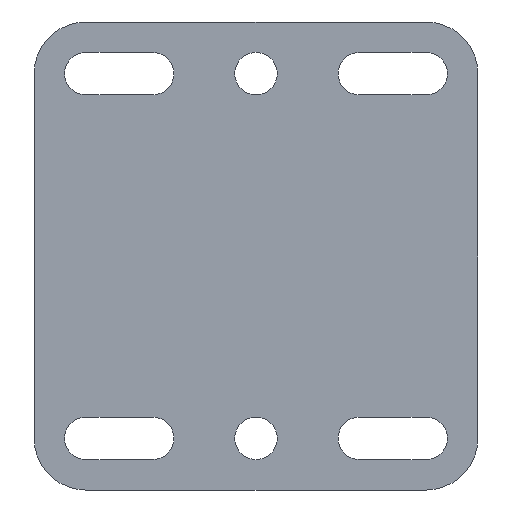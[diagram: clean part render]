
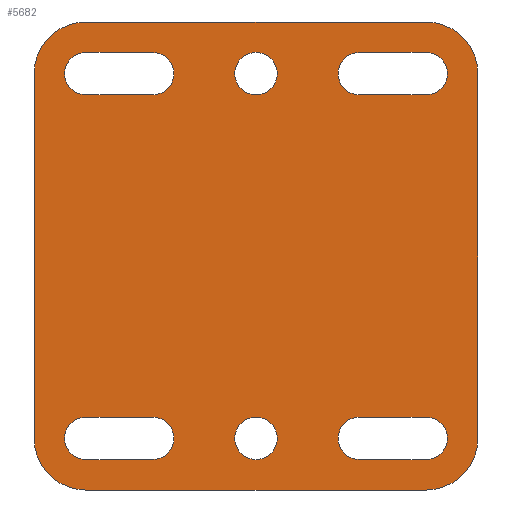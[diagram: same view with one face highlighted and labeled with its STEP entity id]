
A CAD part, front view. The second image highlights one B-rep face of the part: STEP entity #5682.
In plain terms, the highlighted planar face has unit normal (0, -1, 0).
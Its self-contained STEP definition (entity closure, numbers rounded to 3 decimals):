
#99=FACE_BOUND('',#968,.T.);
#100=FACE_BOUND('',#969,.T.);
#101=FACE_BOUND('',#970,.T.);
#102=FACE_BOUND('',#971,.T.);
#103=FACE_BOUND('',#972,.T.);
#104=FACE_BOUND('',#973,.T.);
#213=CIRCLE('',#6068,8.5);
#214=CIRCLE('',#6069,8.5);
#215=CIRCLE('',#6070,8.5);
#216=CIRCLE('',#6071,8.5);
#217=CIRCLE('',#6072,3.5);
#218=CIRCLE('',#6073,3.5);
#219=CIRCLE('',#6074,3.5);
#220=CIRCLE('',#6075,3.5);
#221=CIRCLE('',#6076,3.5);
#222=CIRCLE('',#6077,3.5);
#223=CIRCLE('',#6078,3.5);
#224=CIRCLE('',#6079,3.5);
#225=CIRCLE('',#6080,3.5);
#226=CIRCLE('',#6081,3.5);
#618=FACE_OUTER_BOUND('',#967,.T.);
#967=EDGE_LOOP('',(#3794,#3795,#3796,#3797,#3798,#3799,#3800,#3801));
#968=EDGE_LOOP('',(#3802,#3803,#3804,#3805));
#969=EDGE_LOOP('',(#3806,#3807,#3808,#3809));
#970=EDGE_LOOP('',(#3810));
#971=EDGE_LOOP('',(#3811));
#972=EDGE_LOOP('',(#3812,#3813,#3814,#3815));
#973=EDGE_LOOP('',(#3816,#3817,#3818,#3819));
#1381=LINE('',#8627,#1874);
#1382=LINE('',#8631,#1875);
#1383=LINE('',#8635,#1876);
#1384=LINE('',#8639,#1877);
#1385=LINE('',#8645,#1878);
#1386=LINE('',#8648,#1879);
#1387=LINE('',#8653,#1880);
#1388=LINE('',#8656,#1881);
#1389=LINE('',#8665,#1882);
#1390=LINE('',#8668,#1883);
#1391=LINE('',#8673,#1884);
#1392=LINE('',#8676,#1885);
#1874=VECTOR('',#6758,10.);
#1875=VECTOR('',#6761,10.);
#1876=VECTOR('',#6764,10.);
#1877=VECTOR('',#6767,10.);
#1878=VECTOR('',#6772,10.);
#1879=VECTOR('',#6775,10.);
#1880=VECTOR('',#6778,10.);
#1881=VECTOR('',#6781,10.);
#1882=VECTOR('',#6788,10.);
#1883=VECTOR('',#6791,10.);
#1884=VECTOR('',#6794,10.);
#1885=VECTOR('',#6797,10.);
#2373=VERTEX_POINT('',#8625);
#2374=VERTEX_POINT('',#8626);
#2375=VERTEX_POINT('',#8628);
#2376=VERTEX_POINT('',#8630);
#2377=VERTEX_POINT('',#8632);
#2378=VERTEX_POINT('',#8634);
#2379=VERTEX_POINT('',#8636);
#2380=VERTEX_POINT('',#8638);
#2381=VERTEX_POINT('',#8641);
#2382=VERTEX_POINT('',#8642);
#2383=VERTEX_POINT('',#8644);
#2384=VERTEX_POINT('',#8646);
#2385=VERTEX_POINT('',#8649);
#2386=VERTEX_POINT('',#8650);
#2387=VERTEX_POINT('',#8652);
#2388=VERTEX_POINT('',#8654);
#2389=VERTEX_POINT('',#8657);
#2390=VERTEX_POINT('',#8659);
#2391=VERTEX_POINT('',#8661);
#2392=VERTEX_POINT('',#8662);
#2393=VERTEX_POINT('',#8664);
#2394=VERTEX_POINT('',#8666);
#2395=VERTEX_POINT('',#8669);
#2396=VERTEX_POINT('',#8670);
#2397=VERTEX_POINT('',#8672);
#2398=VERTEX_POINT('',#8674);
#2931=EDGE_CURVE('',#2373,#2374,#1381,.T.);
#2932=EDGE_CURVE('',#2375,#2374,#213,.T.);
#2933=EDGE_CURVE('',#2376,#2375,#1382,.T.);
#2934=EDGE_CURVE('',#2376,#2377,#214,.T.);
#2935=EDGE_CURVE('',#2378,#2377,#1383,.T.);
#2936=EDGE_CURVE('',#2379,#2378,#215,.T.);
#2937=EDGE_CURVE('',#2379,#2380,#1384,.T.);
#2938=EDGE_CURVE('',#2380,#2373,#216,.T.);
#2939=EDGE_CURVE('',#2381,#2382,#217,.T.);
#2940=EDGE_CURVE('',#2382,#2383,#1385,.T.);
#2941=EDGE_CURVE('',#2383,#2384,#218,.T.);
#2942=EDGE_CURVE('',#2384,#2381,#1386,.T.);
#2943=EDGE_CURVE('',#2385,#2386,#219,.T.);
#2944=EDGE_CURVE('',#2387,#2385,#1387,.T.);
#2945=EDGE_CURVE('',#2388,#2387,#220,.T.);
#2946=EDGE_CURVE('',#2386,#2388,#1388,.T.);
#2947=EDGE_CURVE('',#2389,#2389,#221,.T.);
#2948=EDGE_CURVE('',#2390,#2390,#222,.T.);
#2949=EDGE_CURVE('',#2391,#2392,#223,.T.);
#2950=EDGE_CURVE('',#2392,#2393,#1389,.T.);
#2951=EDGE_CURVE('',#2393,#2394,#224,.T.);
#2952=EDGE_CURVE('',#2394,#2391,#1390,.T.);
#2953=EDGE_CURVE('',#2395,#2396,#225,.T.);
#2954=EDGE_CURVE('',#2397,#2395,#1391,.T.);
#2955=EDGE_CURVE('',#2398,#2397,#226,.T.);
#2956=EDGE_CURVE('',#2396,#2398,#1392,.T.);
#3794=ORIENTED_EDGE('',*,*,#2931,.T.);
#3795=ORIENTED_EDGE('',*,*,#2932,.F.);
#3796=ORIENTED_EDGE('',*,*,#2933,.F.);
#3797=ORIENTED_EDGE('',*,*,#2934,.T.);
#3798=ORIENTED_EDGE('',*,*,#2935,.F.);
#3799=ORIENTED_EDGE('',*,*,#2936,.F.);
#3800=ORIENTED_EDGE('',*,*,#2937,.T.);
#3801=ORIENTED_EDGE('',*,*,#2938,.T.);
#3802=ORIENTED_EDGE('',*,*,#2939,.T.);
#3803=ORIENTED_EDGE('',*,*,#2940,.T.);
#3804=ORIENTED_EDGE('',*,*,#2941,.T.);
#3805=ORIENTED_EDGE('',*,*,#2942,.T.);
#3806=ORIENTED_EDGE('',*,*,#2943,.F.);
#3807=ORIENTED_EDGE('',*,*,#2944,.F.);
#3808=ORIENTED_EDGE('',*,*,#2945,.F.);
#3809=ORIENTED_EDGE('',*,*,#2946,.F.);
#3810=ORIENTED_EDGE('',*,*,#2947,.T.);
#3811=ORIENTED_EDGE('',*,*,#2948,.F.);
#3812=ORIENTED_EDGE('',*,*,#2949,.T.);
#3813=ORIENTED_EDGE('',*,*,#2950,.T.);
#3814=ORIENTED_EDGE('',*,*,#2951,.T.);
#3815=ORIENTED_EDGE('',*,*,#2952,.T.);
#3816=ORIENTED_EDGE('',*,*,#2953,.F.);
#3817=ORIENTED_EDGE('',*,*,#2954,.F.);
#3818=ORIENTED_EDGE('',*,*,#2955,.F.);
#3819=ORIENTED_EDGE('',*,*,#2956,.F.);
#5484=PLANE('',#6067);
#5682=ADVANCED_FACE('',(#618,#99,#100,#101,#102,#103,#104),#5484,.F.);
#6067=AXIS2_PLACEMENT_3D('',#8624,#6756,#6757);
#6068=AXIS2_PLACEMENT_3D('',#8629,#6759,#6760);
#6069=AXIS2_PLACEMENT_3D('',#8633,#6762,#6763);
#6070=AXIS2_PLACEMENT_3D('',#8637,#6765,#6766);
#6071=AXIS2_PLACEMENT_3D('',#8640,#6768,#6769);
#6072=AXIS2_PLACEMENT_3D('',#8643,#6770,#6771);
#6073=AXIS2_PLACEMENT_3D('',#8647,#6773,#6774);
#6074=AXIS2_PLACEMENT_3D('',#8651,#6776,#6777);
#6075=AXIS2_PLACEMENT_3D('',#8655,#6779,#6780);
#6076=AXIS2_PLACEMENT_3D('',#8658,#6782,#6783);
#6077=AXIS2_PLACEMENT_3D('',#8660,#6784,#6785);
#6078=AXIS2_PLACEMENT_3D('',#8663,#6786,#6787);
#6079=AXIS2_PLACEMENT_3D('',#8667,#6789,#6790);
#6080=AXIS2_PLACEMENT_3D('',#8671,#6792,#6793);
#6081=AXIS2_PLACEMENT_3D('',#8675,#6795,#6796);
#6756=DIRECTION('center_axis',(0.,1.,0.));
#6757=DIRECTION('ref_axis',(0.,0.,1.));
#6758=DIRECTION('',(0.,0.,-1.));
#6759=DIRECTION('center_axis',(0.,1.,0.));
#6760=DIRECTION('ref_axis',(0.,0.,-1.));
#6761=DIRECTION('',(-1.,0.,0.));
#6762=DIRECTION('center_axis',(0.,-1.,0.));
#6763=DIRECTION('ref_axis',(0.,0.,-1.));
#6764=DIRECTION('',(0.,0.,-1.));
#6765=DIRECTION('center_axis',(0.,1.,0.));
#6766=DIRECTION('ref_axis',(0.,0.,1.));
#6767=DIRECTION('',(-1.,0.,0.));
#6768=DIRECTION('center_axis',(0.,-1.,0.));
#6769=DIRECTION('ref_axis',(0.,0.,1.));
#6770=DIRECTION('center_axis',(0.,1.,0.));
#6771=DIRECTION('ref_axis',(0.,0.,1.));
#6772=DIRECTION('',(1.,0.,0.));
#6773=DIRECTION('center_axis',(0.,1.,0.));
#6774=DIRECTION('ref_axis',(0.,0.,-1.));
#6775=DIRECTION('',(-1.,0.,0.));
#6776=DIRECTION('center_axis',(0.,-1.,0.));
#6777=DIRECTION('ref_axis',(0.,0.,1.));
#6778=DIRECTION('',(1.,0.,0.));
#6779=DIRECTION('center_axis',(0.,-1.,0.));
#6780=DIRECTION('ref_axis',(0.,0.,-1.));
#6781=DIRECTION('',(-1.,0.,0.));
#6782=DIRECTION('center_axis',(0.,1.,0.));
#6783=DIRECTION('ref_axis',(-1.,0.,0.));
#6784=DIRECTION('center_axis',(0.,-1.,0.));
#6785=DIRECTION('ref_axis',(-1.,0.,0.));
#6786=DIRECTION('center_axis',(0.,1.,0.));
#6787=DIRECTION('ref_axis',(0.,0.,-1.));
#6788=DIRECTION('',(-1.,0.,0.));
#6789=DIRECTION('center_axis',(0.,1.,0.));
#6790=DIRECTION('ref_axis',(0.,0.,1.));
#6791=DIRECTION('',(1.,0.,0.));
#6792=DIRECTION('center_axis',(0.,-1.,0.));
#6793=DIRECTION('ref_axis',(0.,0.,-1.));
#6794=DIRECTION('',(-1.,0.,0.));
#6795=DIRECTION('center_axis',(0.,-1.,0.));
#6796=DIRECTION('ref_axis',(0.,0.,1.));
#6797=DIRECTION('',(1.,0.,0.));
#8624=CARTESIAN_POINT('Origin',(17.395,0.,18.346));
#8625=CARTESIAN_POINT('',(-36.5,0.,30.));
#8626=CARTESIAN_POINT('',(-36.5,0.,-30.));
#8627=CARTESIAN_POINT('',(-36.5,0.,30.));
#8628=CARTESIAN_POINT('',(-28.,0.,-38.5));
#8629=CARTESIAN_POINT('Origin',(-28.,0.,-30.));
#8630=CARTESIAN_POINT('',(28.,0.,-38.5));
#8631=CARTESIAN_POINT('',(0.,0.,-38.5));
#8632=CARTESIAN_POINT('',(36.5,0.,-30.));
#8633=CARTESIAN_POINT('Origin',(28.,0.,-30.));
#8634=CARTESIAN_POINT('',(36.5,0.,30.));
#8635=CARTESIAN_POINT('',(36.5,0.,30.));
#8636=CARTESIAN_POINT('',(28.,0.,38.5));
#8637=CARTESIAN_POINT('Origin',(28.,0.,30.));
#8638=CARTESIAN_POINT('',(-28.,0.,38.5));
#8639=CARTESIAN_POINT('',(0.,0.,38.5));
#8640=CARTESIAN_POINT('Origin',(-28.,0.,30.));
#8641=CARTESIAN_POINT('',(17.,0.,26.5));
#8642=CARTESIAN_POINT('',(17.,0.,33.5));
#8643=CARTESIAN_POINT('Origin',(17.,0.,30.));
#8644=CARTESIAN_POINT('',(28.,0.,33.5));
#8645=CARTESIAN_POINT('',(22.697,0.,33.5));
#8646=CARTESIAN_POINT('',(28.,0.,26.5));
#8647=CARTESIAN_POINT('Origin',(28.,0.,30.));
#8648=CARTESIAN_POINT('',(17.197,0.,26.5));
#8649=CARTESIAN_POINT('',(-17.,0.,26.5));
#8650=CARTESIAN_POINT('',(-17.,0.,33.5));
#8651=CARTESIAN_POINT('Origin',(-17.,0.,30.));
#8652=CARTESIAN_POINT('',(-28.,0.,26.5));
#8653=CARTESIAN_POINT('',(-17.197,0.,26.5));
#8654=CARTESIAN_POINT('',(-28.,0.,33.5));
#8655=CARTESIAN_POINT('Origin',(-28.,0.,30.));
#8656=CARTESIAN_POINT('',(-22.697,0.,33.5));
#8657=CARTESIAN_POINT('',(0.,0.,33.5));
#8658=CARTESIAN_POINT('Origin',(0.,0.,30.));
#8659=CARTESIAN_POINT('',(0.,0.,-33.5));
#8660=CARTESIAN_POINT('Origin',(0.,0.,-30.));
#8661=CARTESIAN_POINT('',(-17.,0.,-26.5));
#8662=CARTESIAN_POINT('',(-17.,0.,-33.5));
#8663=CARTESIAN_POINT('Origin',(-17.,0.,-30.));
#8664=CARTESIAN_POINT('',(-28.,0.,-33.5));
#8665=CARTESIAN_POINT('',(-22.697,0.,-33.5));
#8666=CARTESIAN_POINT('',(-28.,0.,-26.5));
#8667=CARTESIAN_POINT('Origin',(-28.,0.,-30.));
#8668=CARTESIAN_POINT('',(-17.197,0.,-26.5));
#8669=CARTESIAN_POINT('',(17.,0.,-26.5));
#8670=CARTESIAN_POINT('',(17.,0.,-33.5));
#8671=CARTESIAN_POINT('Origin',(17.,0.,-30.));
#8672=CARTESIAN_POINT('',(28.,0.,-26.5));
#8673=CARTESIAN_POINT('',(17.197,0.,-26.5));
#8674=CARTESIAN_POINT('',(28.,0.,-33.5));
#8675=CARTESIAN_POINT('Origin',(28.,0.,-30.));
#8676=CARTESIAN_POINT('',(22.697,0.,-33.5));
